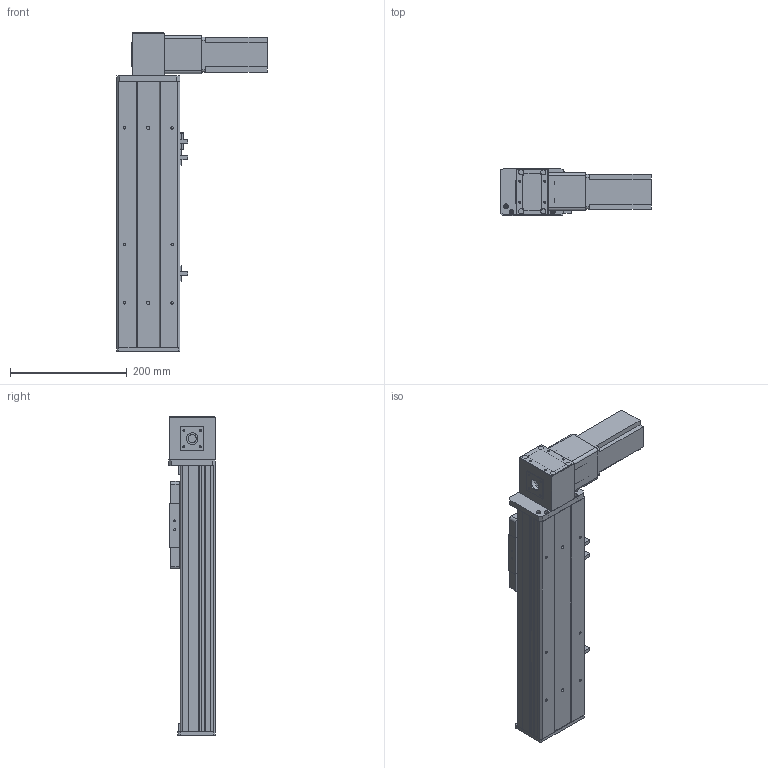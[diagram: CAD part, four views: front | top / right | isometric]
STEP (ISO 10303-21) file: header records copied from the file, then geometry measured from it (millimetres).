
FILE_DESCRIPTION (( 'STEP AP203' ), '1' );
FILE_NAME ('Y10CB-D90-S200-BD-P400W.STEP', '2020-02-17T02:18:14', ( '微软用户' ), ( '微软中国' ), 'SwSTEP 2.0', 'SolidWorks 2017', '' );
FILE_SCHEMA (( 'CONFIG_CONTROL_DESIGN' ));
Length unit declared in the file: millimetre
Products named in the file (16): Y10CB- 掛极耜裔啣-毀---; Y10C---詩湍揤啣; 0CB-雄赽釱---; 10CB9-掛极; 0Cb-俋欶---; 10CB-耜裔; Y10B-々湍喘謫眊楊擘啣--; Y135C-陔俋离換覜結え-; san松下电机400不带刹车----; Y100-135俋离換覜ん--; 0B-源倛裔啣; Y10B--々湍喘謫眊--666; 0B-埴倛裔啣; 0B-薊粣ん眊; 10CB-詩湍-; Y10CB-D90-S200-BD-P400W
Assembly tree (19 placements, depth 2):
  Y10CB-D90-S200-BD-P400W
    0CB-雄赽釱---
    0Cb-俋欶---
    Y10B-々湍喘謫眊楊擘啣--
    san松下电机400不带刹车----
    0B-源倛裔啣
    0B-埴倛裔啣
    10CB-詩湍-
    Y10CB- 掛极耜裔啣-毀---  x2
    Y10C---詩湍揤啣  x2
    10CB9-掛极
    10CB-耜裔
    Y135C-陔俋离換覜結え-
    Y100-135俋离換覜ん--  x3
    Y10B--々湍喘謫眊--666
    0B-薊粣ん眊
Bounding box: 258 x 80.5 x 546 mm (x, y, z)
Volume: 1740230.3 mm3; surface area: 663545 mm2
Topology: 19 solids, 19 shells, 852 faces, 2222 edges, 1460 vertices
Faces by surface type: plane 428, cylinder 400, cone 24
Entity records: 25569 total; most frequent: CARTESIAN_POINT 4312, DIRECTION 4185, ORIENTED_EDGE 3914, EDGE_CURVE 1957, AXIS2_PLACEMENT_3D 1503, VERTEX_POINT 1286, LINE 1179, VECTOR 1179
